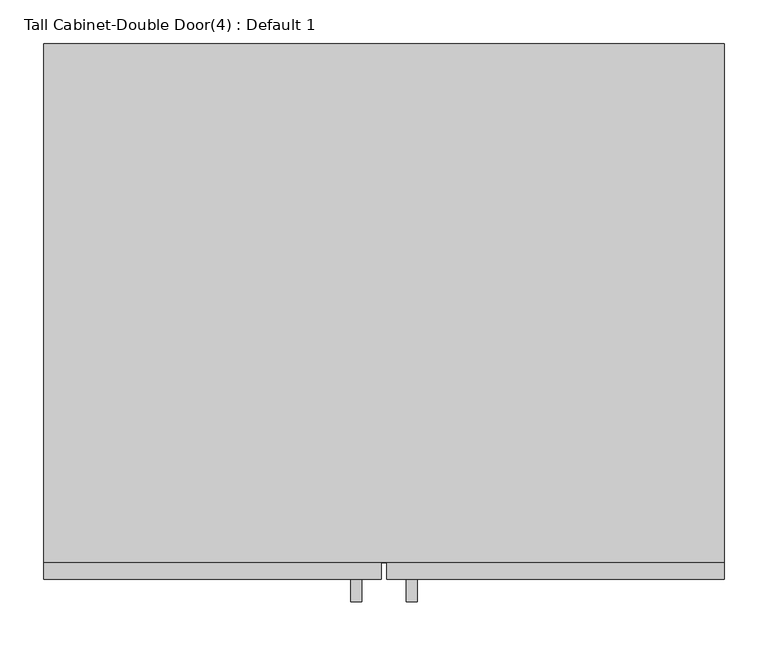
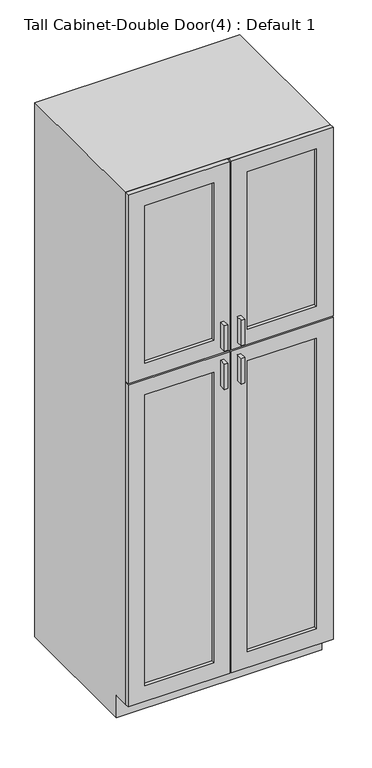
"""IFC4 building model written with IfcOpenShell, lengths in millimetres: furniture geometry, Tall Cabinet-Double Door(4) : Default 1."""

from ifc_helpers import new_model, si_unit, frame, origin, place, context, project, spatial, polyline, outline, extrude, faceted_brep, source, transform, mapped, element, save


def tall_cabinet_double_door_4_default_1_548ee5f5(model_context):
    return source(origin(), model_context, "Body", "SolidModel", [
        faceted_brep([(406.0877049, -590.55, 90.4875), (406.0877049, -590.55, 2133.6), (-368.6122951, -590.55, 2133.6), (-368.6122951, -590.55, 90.4875), (387.0377049, -590.55, 2114.55), (387.0377049, -590.55, 109.5375), (-349.5622951, -590.55, 109.5375), (-349.5622951, -590.55, 2114.55), (-368.6122951, 0.0, 2133.6), (406.0877049, 0.0, 2133.6), (406.0877049, 0.0, 1.5875), (-368.6122951, 0.0, 1.5875), (387.0377049, 0.0, 2114.55), (-349.5622951, 0.0, 2114.55), (-349.5622951, 0.0, 109.5375), (387.0377049, 0.0, 109.5375), (406.0877049, -533.4, 90.4875), (406.0877049, -533.4, 1.5875), (-368.6122951, -533.4, 1.5875), (-368.6122951, -533.4, 90.4875)], [[[0, 1, 2, 3], [4, 5, 6, 7]], [[8, 9, 10, 11], [12, 13, 14, 15]], [[1, 0, 16, 17, 10, 9]], [[2, 1, 9, 8]], [[3, 2, 8, 11, 18, 19]], [[0, 3, 19, 16]], [[5, 4, 12, 15]], [[6, 5, 15, 14]], [[7, 6, 14, 13]], [[4, 7, 13, 12]], [[10, 17, 18, 11]], [[18, 17, 16, 19]]]),
        extrude(outline(polyline([(-6.6622951, -635.0), (-19.1945267, -635.0), (-19.1945267, -609.6), (-6.6622951, -609.6), (-6.6622951, -635.0)])), frame((0.0, 0.0, 1403.5480367), z_axis=(0.0, 0.0, 1.0), x_axis=(1.0, 0.0, 0.0)), (0.0, 0.0, 1.0), 101.6),
        extrude(outline(polyline([(56.6699365, -635.0), (44.1377049, -635.0), (44.1377049, -609.6), (56.6699365, -609.6), (56.6699365, -635.0)])), frame((0.0, 0.0, 1403.5480367), z_axis=(0.0, 0.0, 1.0), x_axis=(1.0, 0.0, 0.0)), (0.0, 0.0, 1.0), 101.6),
        extrude(outline(polyline([(-6.6622951, -635.0), (-19.1945267, -635.0), (-19.1945267, -609.6), (-6.6622951, -609.6), (-6.6622951, -635.0)])), frame((0.0, 0.0, 1251.1480367), z_axis=(0.0, 0.0, 1.0), x_axis=(1.0, 0.0, 0.0)), (0.0, 0.0, 1.0), 101.6),
        extrude(outline(polyline([(56.6699365, -635.0), (44.1377049, -635.0), (44.1377049, -609.6), (56.6699365, -609.6), (56.6699365, -635.0)])), frame((0.0, 0.0, 1251.1480367), z_axis=(0.0, 0.0, 1.0), x_axis=(1.0, 0.0, 0.0)), (0.0, 0.0, 1.0), 101.6),
        extrude(outline(polyline([(-44.7622951, -596.9), (-305.1122951, -596.9), (-305.1122951, -590.55), (-44.7622951, -590.55), (-44.7622951, -596.9)])), frame((0.0, 0.0, 1441.6480367), z_axis=(0.0, 0.0, 1.0), x_axis=(1.0, 0.0, 0.0)), (0.0, 0.0, 1.0), 628.4519633),
        extrude(outline(polyline([(342.5877049, -596.9), (82.2377049, -596.9), (82.2377049, -590.55), (342.5877049, -590.55), (342.5877049, -596.9)])), frame((0.0, 0.0, 1441.6480367), z_axis=(0.0, 0.0, 1.0), x_axis=(1.0, 0.0, 0.0)), (0.0, 0.0, 1.0), 628.4519633),
        extrude(outline(polyline([(-44.7622951, -596.9), (-305.1122951, -596.9), (-305.1122951, -590.55), (-44.7622951, -590.55), (-44.7622951, -596.9)])), frame((0.0, 0.0, 153.9875), z_axis=(0.0, 0.0, 1.0), x_axis=(1.0, 0.0, 0.0)), (0.0, 0.0, 1.0), 1160.6605367),
        extrude(outline(polyline([(342.5877049, -596.9), (82.2377049, -596.9), (82.2377049, -590.55), (342.5877049, -590.55), (342.5877049, -596.9)])), frame((0.0, 0.0, 153.9875), z_axis=(0.0, 0.0, 1.0), x_axis=(1.0, 0.0, 0.0)), (0.0, 0.0, 1.0), 1160.6605367),
        extrude(outline(polyline([(2133.6, 15.5627049), (2133.6, -368.6122951), (1381.3230367, -368.6122951), (1381.3230367, 15.5627049), (2133.6, 15.5627049)]), holes=[polyline([(2070.1, -44.7622951), (1441.6480367, -44.7622951), (1441.6480367, -305.1122951), (2070.1, -305.1122951), (2070.1, -44.7622951)])]), frame((0.0, -609.6, 0.0), z_axis=(0.0, 1.0, 0.0), x_axis=(0.0, 0.0, 1.0)), (0.0, 0.0, 1.0), 19.05),
        extrude(outline(polyline([(2133.6, 21.9127049), (1381.3230367, 21.9127049), (1381.3230367, 406.0877049), (2133.6, 406.0877049), (2133.6, 21.9127049)]), holes=[polyline([(2070.1, 342.5877049), (1441.6480367, 342.5877049), (1441.6480367, 82.2377049), (2070.1, 82.2377049), (2070.1, 342.5877049)])]), frame((0.0, -609.6, 0.0), z_axis=(0.0, 1.0, 0.0), x_axis=(0.0, 0.0, 1.0)), (0.0, 0.0, 1.0), 19.05),
        extrude(outline(polyline([(90.4875, 21.9127049), (90.4875, 406.0877049), (1374.9730367, 406.0877049), (1374.9730367, 21.9127049), (90.4875, 21.9127049)]), holes=[polyline([(1314.6480367, 82.2377049), (1314.6480367, 342.5877049), (153.9875, 342.5877049), (153.9875, 82.2377049), (1314.6480367, 82.2377049)])]), frame((0.0, -609.6, 0.0), z_axis=(0.0, 1.0, 0.0), x_axis=(0.0, 0.0, 1.0)), (0.0, 0.0, 1.0), 19.05),
        extrude(outline(polyline([(90.4875, 15.5627049), (1374.9730367, 15.5627049), (1374.9730367, -368.6122951), (90.4875, -368.6122951), (90.4875, 15.5627049)]), holes=[polyline([(1314.6480367, -44.7622951), (153.9875, -44.7622951), (153.9875, -305.1122951), (1314.6480367, -305.1122951), (1314.6480367, -44.7622951)])]), frame((0.0, -609.6, 0.0), z_axis=(0.0, 1.0, 0.0), x_axis=(0.0, 0.0, 1.0)), (0.0, 0.0, 1.0), 19.05),
        extrude(outline(polyline([(387.0377049, -19.05), (-349.5622951, -19.05), (-349.5622951, 0.0), (387.0377049, 0.0), (387.0377049, -19.05)])), frame((0.0, 0.0, 109.5375), z_axis=(0.0, 0.0, 1.0), x_axis=(1.0, 0.0, 0.0)), (0.0, 0.0, 1.0), 2005.0125),
    ])


if __name__ == "__main__":
    model = new_model("IFC4")
    model_context = context("Model", 3, world=origin())
    ifc_project = project(units=[si_unit("LENGTHUNIT", "METRE", prefix="MILLI")], contexts=[model_context])
    site = spatial("IfcSite", under=ifc_project)
    building = spatial("IfcBuilding", under=site)
    placement = place(None, origin())
    tall_cabinet_double_door_4_default_1_shape = tall_cabinet_double_door_4_default_1_548ee5f5(model_context)
    element("IfcFurniture", 1, ObjectType="Tall Cabinet-Double Door(4) : Default 1", at=placement, inside=building, context=model_context, shape_type="MappedRepresentation", body=[
        mapped(tall_cabinet_double_door_4_default_1_shape, transform((0.0, 0.0, 0.0), x_axis=(1.0, 0.0, 0.0), y_axis=(0.0, 1.0, 0.0), z_axis=(0.0, 0.0, 1.0))),
    ])
    save(model, "model.ifc")
